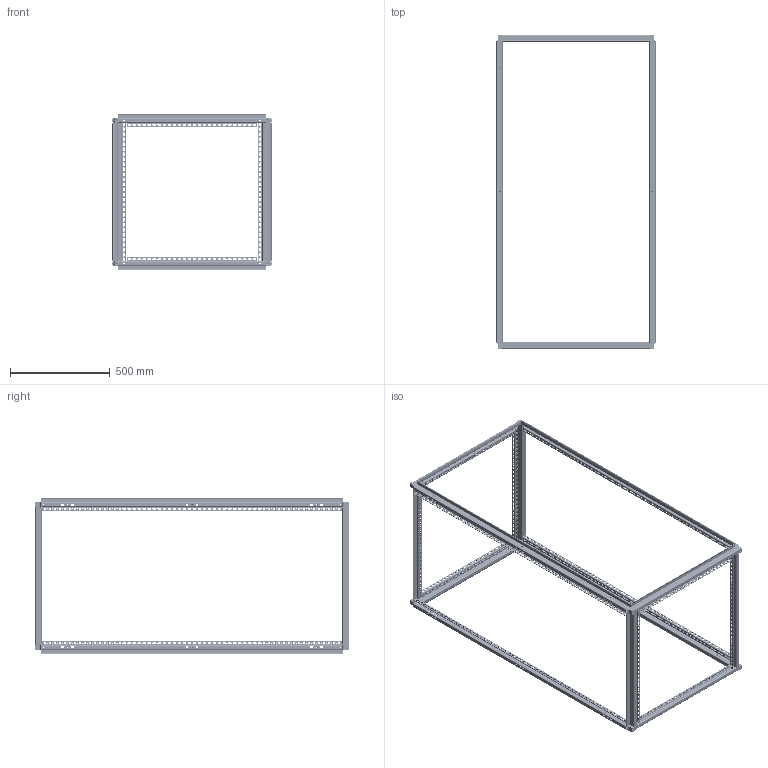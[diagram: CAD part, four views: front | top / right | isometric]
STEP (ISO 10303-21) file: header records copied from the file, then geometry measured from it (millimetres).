
FILE_DESCRIPTION (( 'STEP AP203' ), '1' );
FILE_NAME ('pf1688.STEP', '2010-04-15T16:03:11', ( 'Hoffman User' ), ( 'Hoffman Enclosures' ), 'SwSTEP 2.0', 'SolidWorks 2009', '' );
FILE_SCHEMA (( 'CONFIG_CONTROL_DESIGN' ));
Length unit declared in the file: inch
Products named in the file (7): 20127044; 30127060; 60127024_As installed; pf1688; 60127013; 30127006; 30127079
Assembly tree (33 placements, depth 3):
  pf1688
    60127024_As installed  x12
    20127044
      60127013  x8
      30127079  x4
      30127006  x4
      30127060  x4
Bounding box: 798.8 x 1580 x 787.8 mm (x, y, z)
Volume: 3651911.5 mm3; surface area: 3111475.4 mm2
Topology: 32 solids, 32 shells, 8740 faces, 25812 edges, 17040 vertices
Faces by surface type: plane 5604, cylinder 2992, torus 96, cone 48
Entity records: 63438 total; most frequent: CARTESIAN_POINT 10845, ORIENTED_EDGE 10618, DIRECTION 10125, EDGE_CURVE 5309, VECTOR 4083, LINE 4083, VERTEX_POINT 3511, AXIS2_PLACEMENT_3D 3021
